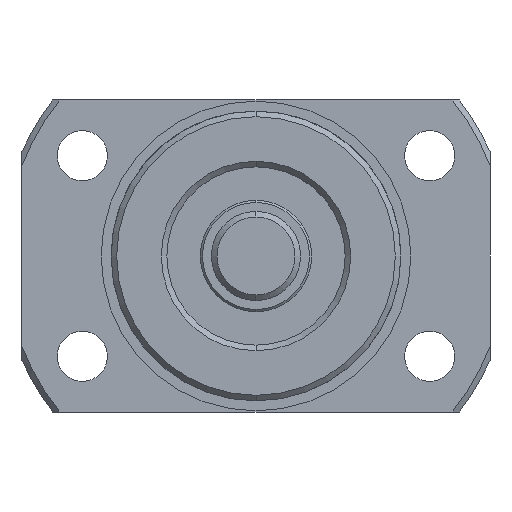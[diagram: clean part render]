
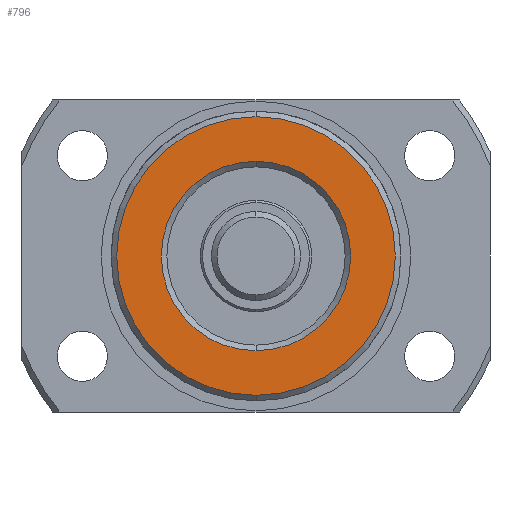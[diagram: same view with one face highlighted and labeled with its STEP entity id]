
A CAD part, left-side view. The second image highlights one B-rep face of the part: STEP entity #796.
In plain terms, the highlighted planar face has unit normal (-1, 0, 0).
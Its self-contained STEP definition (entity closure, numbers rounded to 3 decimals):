
#796 = ADVANCED_FACE ( 'NONE', ( #5008, #3844 ), #2764, .F. ) ;
#961 = CARTESIAN_POINT ( 'NONE',  ( -40., 0., 0. ) ) ;
#1001 = DIRECTION ( 'NONE',  ( -1., 0., 0. ) ) ;
#1048 = DIRECTION ( 'NONE',  ( 0., 0., 1. ) ) ;
#1637 = CARTESIAN_POINT ( 'NONE',  ( -40., 0., 0. ) ) ;
#1713 = DIRECTION ( 'NONE',  ( 0., 0., 1. ) ) ;
#1720 = CARTESIAN_POINT ( 'NONE',  ( -40., 0., 0. ) ) ;
#1726 = DIRECTION ( 'NONE',  ( -1., 0., 0. ) ) ;
#1739 = DIRECTION ( 'NONE',  ( -1., 0., 0. ) ) ;
#1755 = DIRECTION ( 'NONE',  ( 0., 0., 1. ) ) ;
#1865 = AXIS2_PLACEMENT_3D ( 'NONE', #2702, #2666, #2814 ) ;
#1898 = AXIS2_PLACEMENT_3D ( 'NONE', #1720, #1726, #1713 ) ;
#1903 = AXIS2_PLACEMENT_3D ( 'NONE', #1637, #1739, #1755 ) ;
#1940 = AXIS2_PLACEMENT_3D ( 'NONE', #961, #1001, #1048 ) ;
#1975 = AXIS2_PLACEMENT_3D ( 'NONE', #5260, #5247, #5246 ) ;
#2468 = CARTESIAN_POINT ( 'NONE',  ( -40., 0., -12.5 ) ) ;
#2605 = CARTESIAN_POINT ( 'NONE',  ( -40., 0., 8.5 ) ) ;
#2666 = DIRECTION ( 'NONE',  ( 1., 0., 0. ) ) ;
#2702 = CARTESIAN_POINT ( 'NONE',  ( -40., 12.5, 0. ) ) ;
#2757 = CARTESIAN_POINT ( 'NONE',  ( -40., 0., 12.5 ) ) ;
#2764 = PLANE ( 'NONE',  #1865 ) ;
#2814 = DIRECTION ( 'NONE',  ( 0., 0., -1. ) ) ;
#2998 = CARTESIAN_POINT ( 'NONE',  ( -40., 0., -8.5 ) ) ;
#3258 = VERTEX_POINT ( 'NONE', #2998 ) ;
#3342 = EDGE_LOOP ( 'NONE', ( #3367, #3925 ) ) ;
#3353 = VERTEX_POINT ( 'NONE', #2468 ) ;
#3363 = EDGE_LOOP ( 'NONE', ( #4053, #3975 ) ) ;
#3367 = ORIENTED_EDGE ( 'NONE', *, *, #5425, .T. ) ;
#3372 = VERTEX_POINT ( 'NONE', #2757 ) ;
#3749 = CIRCLE ( 'NONE', #1975, 8.5 ) ;
#3844 = FACE_OUTER_BOUND ( 'NONE', #3342, .T. ) ;
#3925 = ORIENTED_EDGE ( 'NONE', *, *, #5156, .T. ) ;
#3975 = ORIENTED_EDGE ( 'NONE', *, *, #5146, .F. ) ;
#4053 = ORIENTED_EDGE ( 'NONE', *, *, #5488, .F. ) ;
#4254 = CIRCLE ( 'NONE', #1898, 8.5 ) ;
#4492 = VERTEX_POINT ( 'NONE', #2605 ) ;
#4790 = CIRCLE ( 'NONE', #1903, 12.5 ) ;
#5008 = FACE_BOUND ( 'NONE', #3363, .T. ) ;
#5056 = CIRCLE ( 'NONE', #1940, 12.5 ) ;
#5146 = EDGE_CURVE ( 'NONE', #3258, #4492, #4254, .T. ) ;
#5156 = EDGE_CURVE ( 'NONE', #3372, #3353, #4790, .T. ) ;
#5246 = DIRECTION ( 'NONE',  ( 0., 0., 1. ) ) ;
#5247 = DIRECTION ( 'NONE',  ( -1., 0., 0. ) ) ;
#5260 = CARTESIAN_POINT ( 'NONE',  ( -40., 0., 0. ) ) ;
#5425 = EDGE_CURVE ( 'NONE', #3353, #3372, #5056, .T. ) ;
#5488 = EDGE_CURVE ( 'NONE', #4492, #3258, #3749, .T. ) ;
